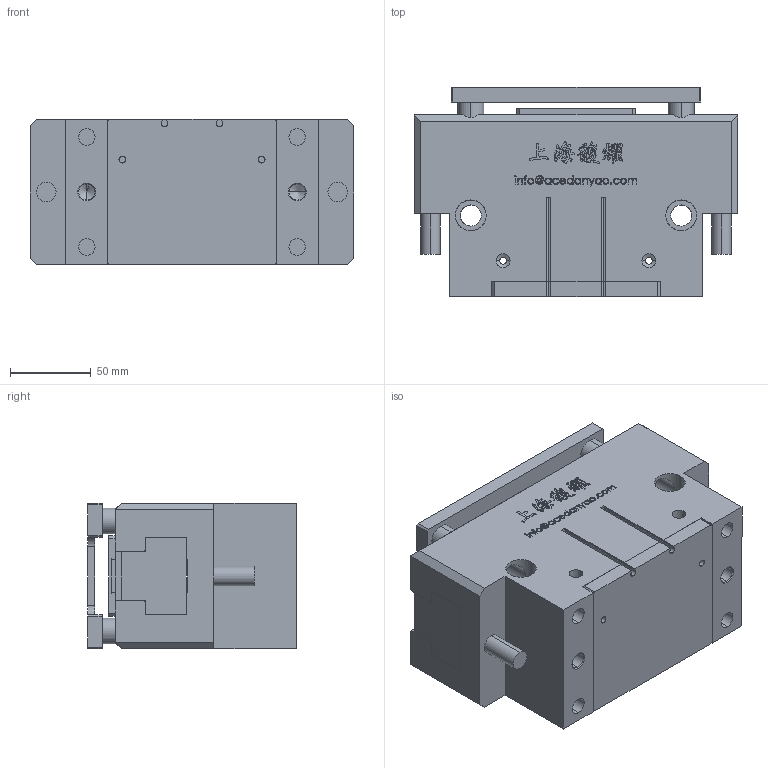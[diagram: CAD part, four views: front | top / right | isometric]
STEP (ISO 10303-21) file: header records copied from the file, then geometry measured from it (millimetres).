
FILE_DESCRIPTION (( 'STEP AP203' ), '1' );
FILE_NAME ('OPP2-200-C1-P-原始檔-組合-W106.04.19.STEP', '2017-04-19T05:42:51', ( 'DanyaoCAD' ), ( '' ), 'SwSTEP 2.0', 'SolidWorks 2016', '' );
FILE_SCHEMA (( 'CONFIG_CONTROL_DESIGN' ));
Length unit declared in the file: millimetre
Products named in the file (6): Coperchio; Fondello; Piattello; OPP2-200-C1-P-原始檔-組合-W106.04.19; Griffa; Corpo
Assembly tree (6 placements, depth 2):
  OPP2-200-C1-P-原始檔-組合-W106.04.19
    Griffa  x2
    Corpo
    Coperchio
    Fondello
    Piattello
Bounding box: 200 x 129 x 90 mm (x, y, z)
Volume: 1736246.3 mm3; surface area: 256270 mm2
Topology: 6 solids, 6 shells, 1119 faces, 3086 edges, 2030 vertices
Faces by surface type: bspline 640, plane 319, cylinder 120, cone 40
Entity records: 51895 total; most frequent: CARTESIAN_POINT 27937, ORIENTED_EDGE 5954, EDGE_CURVE 2977, DIRECTION 2797, VERTEX_POINT 1970, LINE 1433, VECTOR 1433, B_SPLINE_CURVE_WITH_KNOTS 1304
